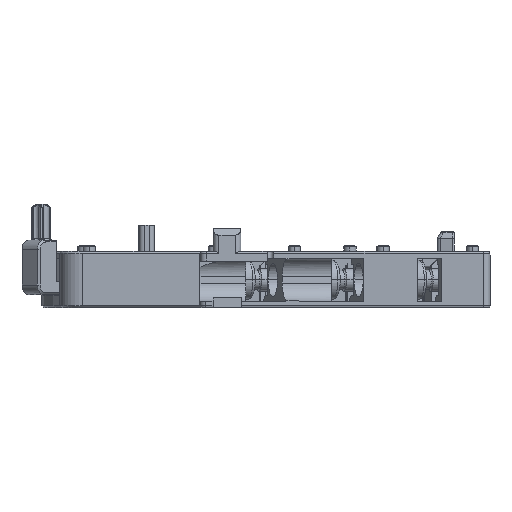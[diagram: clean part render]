
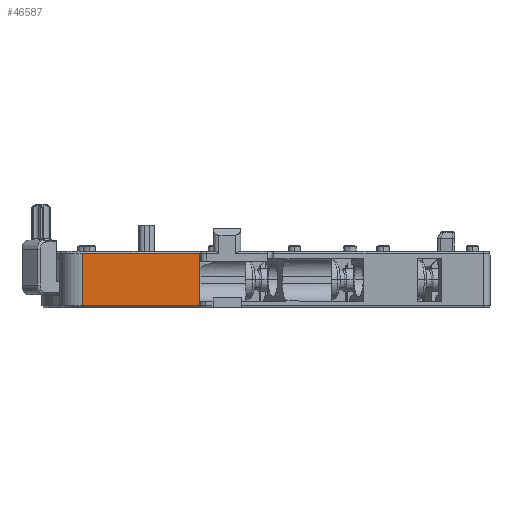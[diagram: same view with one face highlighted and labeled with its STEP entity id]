
A CAD part, left-side view. The second image highlights one B-rep face of the part: STEP entity #46587.
In plain terms, the highlighted planar face has unit normal (-1, 0, 0).
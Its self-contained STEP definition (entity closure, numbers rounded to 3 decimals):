
#2018=DIRECTION('',(0.,-1.,0.));
#2019=VECTOR('',#2018,18.);
#2020=CARTESIAN_POINT('',(-30.,11.,4.1));
#2021=LINE('',#2020,#2019);
#2022=DIRECTION('',(0.,0.,-1.));
#2023=VECTOR('',#2022,4.1);
#2024=CARTESIAN_POINT('',(-30.,-7.,4.1));
#2025=LINE('',#2024,#2023);
#2026=DIRECTION('',(0.,0.,-1.));
#2027=VECTOR('',#2026,4.);
#2028=CARTESIAN_POINT('',(-30.,-7.,0.));
#2029=LINE('',#2028,#2027);
#2030=DIRECTION('',(0.,1.,0.));
#2031=VECTOR('',#2030,18.);
#2032=CARTESIAN_POINT('',(-30.,-7.,-4.));
#2033=LINE('',#2032,#2031);
#2034=DIRECTION('',(0.,0.,1.));
#2035=VECTOR('',#2034,8.1);
#2036=CARTESIAN_POINT('',(-30.,11.,-4.));
#2037=LINE('',#2036,#2035);
#35990=CARTESIAN_POINT('',(-30.,-7.,-4.));
#35991=CARTESIAN_POINT('',(-30.,11.,-4.));
#35992=VERTEX_POINT('',#35990);
#35993=VERTEX_POINT('',#35991);
#36003=CARTESIAN_POINT('',(-30.,-7.,4.1));
#36005=VERTEX_POINT('',#36003);
#36006=CARTESIAN_POINT('',(-30.,11.,4.1));
#36007=VERTEX_POINT('',#36006);
#36872=CARTESIAN_POINT('',(-30.,-7.,0.));
#36873=VERTEX_POINT('',#36872);
#46573=CARTESIAN_POINT('',(-30.,-7.,0.));
#46574=DIRECTION('',(1.,0.,0.));
#46575=DIRECTION('',(0.,1.,0.));
#46576=AXIS2_PLACEMENT_3D('',#46573,#46574,#46575);
#46577=PLANE('',#46576);
#46578=ORIENTED_EDGE('',*,*,#46564,.T.);
#46579=ORIENTED_EDGE('',*,*,#46553,.T.);
#46580=ORIENTED_EDGE('',*,*,#46407,.T.);
#46582=ORIENTED_EDGE('',*,*,#46581,.T.);
#46584=ORIENTED_EDGE('',*,*,#46583,.T.);
#46585=EDGE_LOOP('',(#46578,#46579,#46580,#46582,#46584));
#46586=FACE_OUTER_BOUND('',#46585,.F.);
#46587=ADVANCED_FACE('',(#46586),#46577,.F.);
#46407=EDGE_CURVE('',#36873,#35992,#2029,.T.);
#46553=EDGE_CURVE('',#36005,#36873,#2025,.T.);
#46564=EDGE_CURVE('',#36007,#36005,#2021,.T.);
#46581=EDGE_CURVE('',#35992,#35993,#2033,.T.);
#46583=EDGE_CURVE('',#35993,#36007,#2037,.T.);
